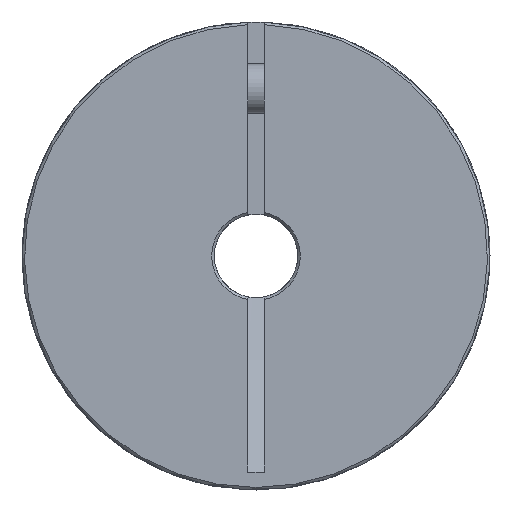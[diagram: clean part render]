
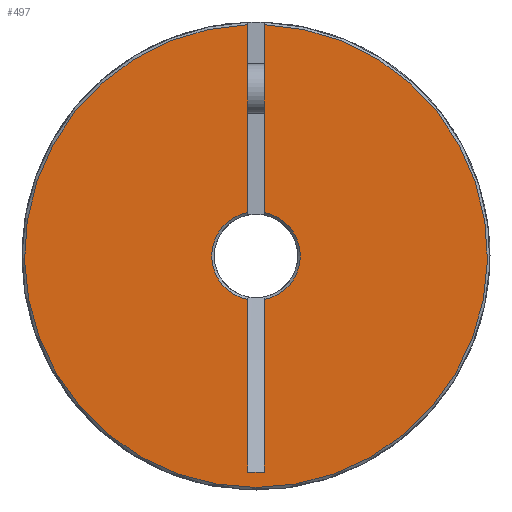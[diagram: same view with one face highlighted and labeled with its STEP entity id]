
A CAD part, left-side view. The second image highlights one B-rep face of the part: STEP entity #497.
In plain terms, the highlighted planar face has unit normal (-1, 0, 0) as drawn and (0, 0, 1) by its records, which use the part's own axes.
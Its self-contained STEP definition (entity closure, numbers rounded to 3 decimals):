
#497 = ADVANCED_FACE( 'NONE', ( #1041 ), #1042, .T. );
#1041 = FACE_OUTER_BOUND( '', #1650, .T. );
#1042 = PLANE( '', #1651 );
#1650 = EDGE_LOOP( '', ( #2707, #2708, #2709, #2710, #2711, #2712, #2713, #2714 ) );
#1651 = AXIS2_PLACEMENT_3D( '', #2715, #2716, #2717 );
#2707 = ORIENTED_EDGE( '', *, *, #3573, .F. );
#2708 = ORIENTED_EDGE( '', *, *, #3484, .T. );
#2709 = ORIENTED_EDGE( '', *, *, #3589, .T. );
#2710 = ORIENTED_EDGE( '', *, *, #3474, .T. );
#2711 = ORIENTED_EDGE( '', *, *, #3299, .T. );
#2712 = ORIENTED_EDGE( '', *, *, #3551, .F. );
#2713 = ORIENTED_EDGE( '', *, *, #3563, .F. );
#2714 = ORIENTED_EDGE( '', *, *, #3601, .T. );
#2715 = CARTESIAN_POINT( '', ( 0., 0., 24.5 ) );
#2716 = DIRECTION( '', ( 0., 0., 1. ) );
#2717 = DIRECTION( '', ( 1., 0., 0. ) );
#3299 = EDGE_CURVE( 'NONE', #3869, #3870, #3871, .T. );
#3474 = EDGE_CURVE( 'NONE', #4141, #3869, #4142, .F. );
#3484 = EDGE_CURVE( 'NONE', #4157, #4155, #4158, .T. );
#3551 = EDGE_CURVE( 'NONE', #4250, #3870, #4251, .F. );
#3563 = EDGE_CURVE( 'NONE', #4265, #4250, #4267, .F. );
#3573 = EDGE_CURVE( 'NONE', #4157, #4279, #4280, .F. );
#3589 = EDGE_CURVE( 'NONE', #4155, #4141, #4301, .T. );
#3601 = EDGE_CURVE( 'NONE', #4265, #4279, #4318, .F. );
#3869 = VERTEX_POINT( 'NONE', #4676 );
#3870 = VERTEX_POINT( 'NONE', #4677 );
#3871 = LINE( '', #4678, #4679 );
#4141 = VERTEX_POINT( 'NONE', #5071 );
#4142 = CIRCLE( '', #5072, 5.3 );
#4155 = VERTEX_POINT( 'NONE', #5089 );
#4157 = VERTEX_POINT( 'NONE', #5094 );
#4158 = CIRCLE( '', #5095, 27.7 );
#4250 = VERTEX_POINT( 'NONE', #5355 );
#4251 = LINE( '', #5356, #5357 );
#4265 = VERTEX_POINT( 'NONE', #5377 );
#4267 = LINE( '', #5382, #5383 );
#4279 = VERTEX_POINT( 'NONE', #5398 );
#4280 = LINE( '', #5399, #5400 );
#4301 = LINE( '', #5426, #5427 );
#4318 = CIRCLE( '', #5447, 5.3 );
#4676 = CARTESIAN_POINT( '', ( -5.205, -1., 24.5 ) );
#4677 = CARTESIAN_POINT( '', ( -25.849, -1., 24.5 ) );
#4678 = CARTESIAN_POINT( '', ( 0., -1., 24.5 ) );
#4679 = VECTOR( '', #5760, 1000. );
#5071 = CARTESIAN_POINT( '', ( 5.205, -1., 24.5 ) );
#5072 = AXIS2_PLACEMENT_3D( '', #6065, #6066, #6067 );
#5089 = CARTESIAN_POINT( '', ( 27.682, -1., 24.5 ) );
#5094 = CARTESIAN_POINT( '', ( 27.682, 1., 24.5 ) );
#5095 = AXIS2_PLACEMENT_3D( '', #6078, #6079, #6080 );
#5355 = CARTESIAN_POINT( '', ( -25.849, 1., 24.5 ) );
#5356 = CARTESIAN_POINT( '', ( -25.849, -1., 24.5 ) );
#5357 = VECTOR( '', #6158, 1000. );
#5377 = CARTESIAN_POINT( '', ( -5.205, 1., 24.5 ) );
#5382 = CARTESIAN_POINT( '', ( 17., 1., 24.5 ) );
#5383 = VECTOR( '', #6168, 1000. );
#5398 = CARTESIAN_POINT( '', ( 5.205, 1., 24.5 ) );
#5399 = CARTESIAN_POINT( '', ( 17., 1., 24.5 ) );
#5400 = VECTOR( '', #6178, 1000. );
#5426 = CARTESIAN_POINT( '', ( 0., -1., 24.5 ) );
#5427 = VECTOR( '', #6196, 1000. );
#5447 = AXIS2_PLACEMENT_3D( '', #6212, #6213, #6214 );
#5760 = DIRECTION( '', ( -1., 0., 0. ) );
#6065 = CARTESIAN_POINT( '', ( 0., 0., 24.5 ) );
#6066 = DIRECTION( '', ( 0., 0., 1. ) );
#6067 = DIRECTION( '', ( 1., 0., 0. ) );
#6078 = CARTESIAN_POINT( '', ( 0., 0., 24.5 ) );
#6079 = DIRECTION( '', ( 0., 0., 1. ) );
#6080 = DIRECTION( '', ( 1., 0., 0. ) );
#6158 = DIRECTION( '', ( 0., 1., 0. ) );
#6168 = DIRECTION( '', ( 1., 0., 0. ) );
#6178 = DIRECTION( '', ( 1., 0., 0. ) );
#6196 = DIRECTION( '', ( -1., 0., 0. ) );
#6212 = CARTESIAN_POINT( '', ( 0., 0., 24.5 ) );
#6213 = DIRECTION( '', ( 0., 0., 1. ) );
#6214 = DIRECTION( '', ( 1., 0., 0. ) );
